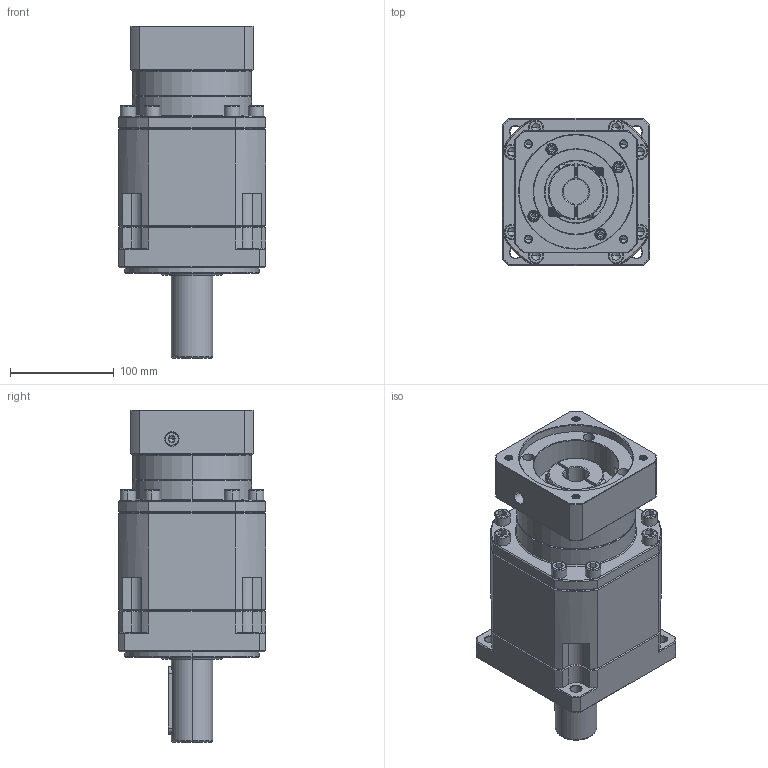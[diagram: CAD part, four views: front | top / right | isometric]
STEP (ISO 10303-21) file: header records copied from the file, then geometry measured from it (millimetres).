
FILE_DESCRIPTION (( 'STEP AP214' ), '1' );
FILE_NAME ('ZB142A-D40-L3-24-110-130-M8.step', '2023-03-18T07:06:20', ( '' ), ( '' ), 'SwSTEP 2.0', 'SolidWorks 2016', '' );
FILE_SCHEMA (( 'AUTOMOTIVE_DESIGN' ));
Length unit declared in the file: millimetre
Products named in the file (1): ZB142A-D40-L3-24-110-130-M8
Bounding box: 142 x 142 x 320.7 mm (x, y, z)
Volume: 3690719.7 mm3; surface area: 259123.5 mm2
Topology: 6 solids, 6 shells, 2265 faces, 5822 edges, 3678 vertices
Faces by surface type: plane 1025, cylinder 490, cone 385, bspline 307, torus 58
Entity records: 119636 total; most frequent: CARTESIAN_POINT 42307, ORIENTED_EDGE 11536, DIRECTION 9804, EDGE_CURVE 5768, VERTEX_POINT 3678, VECTOR 3584, LINE 3584, AXIS2_PLACEMENT_3D 3110
